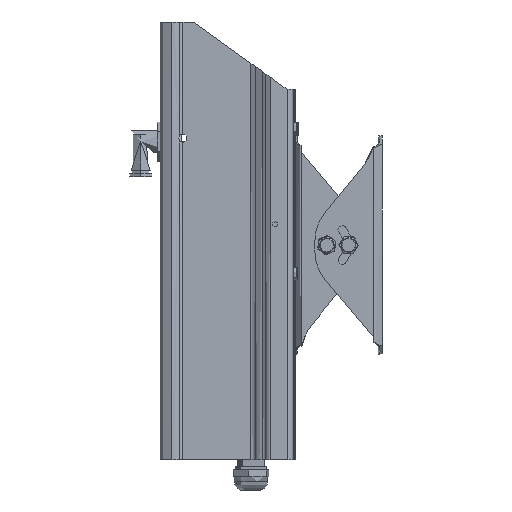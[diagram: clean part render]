
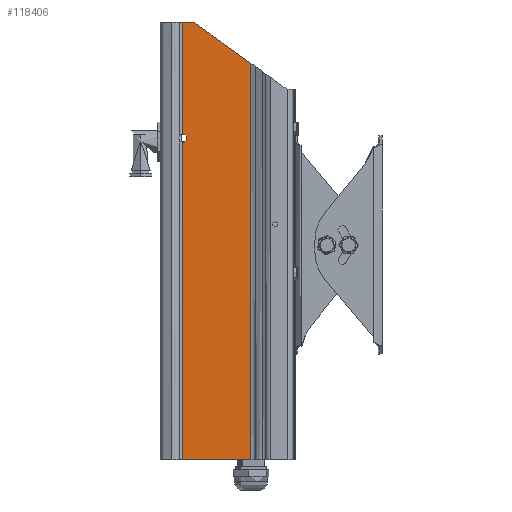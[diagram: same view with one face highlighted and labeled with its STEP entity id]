
A CAD part, left-side view. The second image highlights one B-rep face of the part: STEP entity #118406.
In plain terms, the highlighted planar face has unit normal (-1, 0, 0).
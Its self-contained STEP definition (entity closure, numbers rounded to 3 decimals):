
#2866 = CARTESIAN_POINT ( 'NONE',  ( -35.5, 65.386, 58.503 ) ) ;
#4661 = DIRECTION ( 'NONE',  ( 1., 0., 0. ) ) ;
#4800 = VERTEX_POINT ( 'NONE', #59433 ) ;
#9404 = VERTEX_POINT ( 'NONE', #94133 ) ;
#14304 = ORIENTED_EDGE ( 'NONE', *, *, #137225, .F. ) ;
#23701 = DIRECTION ( 'NONE',  ( 1., 0., 0. ) ) ;
#28860 = DIRECTION ( 'NONE',  ( 0., 0., -1. ) ) ;
#32167 = EDGE_CURVE ( 'NONE', #158401, #106491, #164673, .T. ) ;
#33798 = CARTESIAN_POINT ( 'NONE',  ( -35.5, 65.386, 130. ) ) ;
#34841 = DIRECTION ( 'NONE',  ( 0., 1., 0. ) ) ;
#35457 = DIRECTION ( 'NONE',  ( 0., 0., -1. ) ) ;
#38750 = CARTESIAN_POINT ( 'NONE',  ( -35.5, 65.386, 130. ) ) ;
#38816 = VECTOR ( 'NONE', #62690, 1000. ) ;
#40940 = LINE ( 'NONE', #159412, #38816 ) ;
#44142 = CARTESIAN_POINT ( 'NONE',  ( -35.5, 20.17, 102.014 ) ) ;
#47096 = ORIENTED_EDGE ( 'NONE', *, *, #68520, .T. ) ;
#47423 = EDGE_CURVE ( 'NONE', #4800, #71955, #160045, .T. ) ;
#47470 = EDGE_CURVE ( 'NONE', #106491, #93695, #120464, .T. ) ;
#48330 = EDGE_LOOP ( 'NONE', ( #59164, #151946, #158772, #129844, #47096, #85893, #125510, #14304 ) ) ;
#48630 = VECTOR ( 'NONE', #28860, 1000. ) ;
#49678 = DIRECTION ( 'NONE',  ( 1., 0., 0. ) ) ;
#53914 = CARTESIAN_POINT ( 'NONE',  ( -35.5, 65.386, -130. ) ) ;
#59164 = ORIENTED_EDGE ( 'NONE', *, *, #116447, .T. ) ;
#59433 = CARTESIAN_POINT ( 'NONE',  ( -35.5, 59., 130. ) ) ;
#59669 = VERTEX_POINT ( 'NONE', #38750 ) ;
#59931 = LINE ( 'NONE', #139702, #112778 ) ;
#62690 = DIRECTION ( 'NONE',  ( 0., 0., -1. ) ) ;
#68520 = EDGE_CURVE ( 'NONE', #129320, #9404, #147849, .T. ) ;
#69023 = DIRECTION ( 'NONE',  ( 0., -0.811, -0.585 ) ) ;
#71955 = VERTEX_POINT ( 'NONE', #86142 ) ;
#85893 = ORIENTED_EDGE ( 'NONE', *, *, #101416, .F. ) ;
#86142 = CARTESIAN_POINT ( 'NONE',  ( -35.5, 24.983, 105.483 ) ) ;
#86604 = PLANE ( 'NONE',  #148613 ) ;
#87844 = AXIS2_PLACEMENT_3D ( 'NONE', #152449, #23701, #34841 ) ;
#93276 = CARTESIAN_POINT ( 'NONE',  ( -35.5, 24.983, 130. ) ) ;
#93695 = VERTEX_POINT ( 'NONE', #2866 ) ;
#94133 = CARTESIAN_POINT ( 'NONE',  ( -35.5, 24.983, -130. ) ) ;
#96528 = CARTESIAN_POINT ( 'NONE',  ( -35.5, 65.5, 61. ) ) ;
#97369 = CARTESIAN_POINT ( 'NONE',  ( -35.5, 63., 61. ) ) ;
#101416 = EDGE_CURVE ( 'NONE', #71955, #9404, #143866, .T. ) ;
#106491 = VERTEX_POINT ( 'NONE', #97369 ) ;
#111528 = CARTESIAN_POINT ( 'NONE',  ( -35.5, 0., 130. ) ) ;
#112778 = VECTOR ( 'NONE', #168069, 1000. ) ;
#114883 = VECTOR ( 'NONE', #35457, 1000. ) ;
#116447 = EDGE_CURVE ( 'NONE', #59669, #158401, #40940, .T. ) ;
#118406 = ADVANCED_FACE ( 'NONE', ( #146758 ), #86604, .F. ) ;
#120464 = CIRCLE ( 'NONE', #134181, 2.5 ) ;
#125510 = ORIENTED_EDGE ( 'NONE', *, *, #47423, .F. ) ;
#129320 = VERTEX_POINT ( 'NONE', #53914 ) ;
#129844 = ORIENTED_EDGE ( 'NONE', *, *, #154231, .T. ) ;
#134181 = AXIS2_PLACEMENT_3D ( 'NONE', #96528, #4661, #162595 ) ;
#134975 = CARTESIAN_POINT ( 'NONE',  ( -35.5, 0., -130. ) ) ;
#137225 = EDGE_CURVE ( 'NONE', #59669, #4800, #59931, .T. ) ;
#139702 = CARTESIAN_POINT ( 'NONE',  ( -35.5, 0., 130. ) ) ;
#143866 = LINE ( 'NONE', #93276, #48630 ) ;
#145295 = DIRECTION ( 'NONE',  ( 0., -1., 0. ) ) ;
#146758 = FACE_OUTER_BOUND ( 'NONE', #48330, .T. ) ;
#147849 = LINE ( 'NONE', #134975, #152039 ) ;
#148613 = AXIS2_PLACEMENT_3D ( 'NONE', #111528, #49678, #163886 ) ;
#151946 = ORIENTED_EDGE ( 'NONE', *, *, #32167, .T. ) ;
#152039 = VECTOR ( 'NONE', #145295, 1000. ) ;
#152449 = CARTESIAN_POINT ( 'NONE',  ( -35.5, 65.5, 61. ) ) ;
#154231 = EDGE_CURVE ( 'NONE', #93695, #129320, #165122, .T. ) ;
#158056 = CARTESIAN_POINT ( 'NONE',  ( -35.5, 65.386, 63.497 ) ) ;
#158401 = VERTEX_POINT ( 'NONE', #158056 ) ;
#158772 = ORIENTED_EDGE ( 'NONE', *, *, #47470, .T. ) ;
#159412 = CARTESIAN_POINT ( 'NONE',  ( -35.5, 65.386, 130. ) ) ;
#160045 = LINE ( 'NONE', #44142, #167190 ) ;
#162595 = DIRECTION ( 'NONE',  ( 0., 1., 0. ) ) ;
#163886 = DIRECTION ( 'NONE',  ( 0., 1., 0. ) ) ;
#164673 = CIRCLE ( 'NONE', #87844, 2.5 ) ;
#165122 = LINE ( 'NONE', #33798, #114883 ) ;
#167190 = VECTOR ( 'NONE', #69023, 1000. ) ;
#168069 = DIRECTION ( 'NONE',  ( 0., -1., 0. ) ) ;
